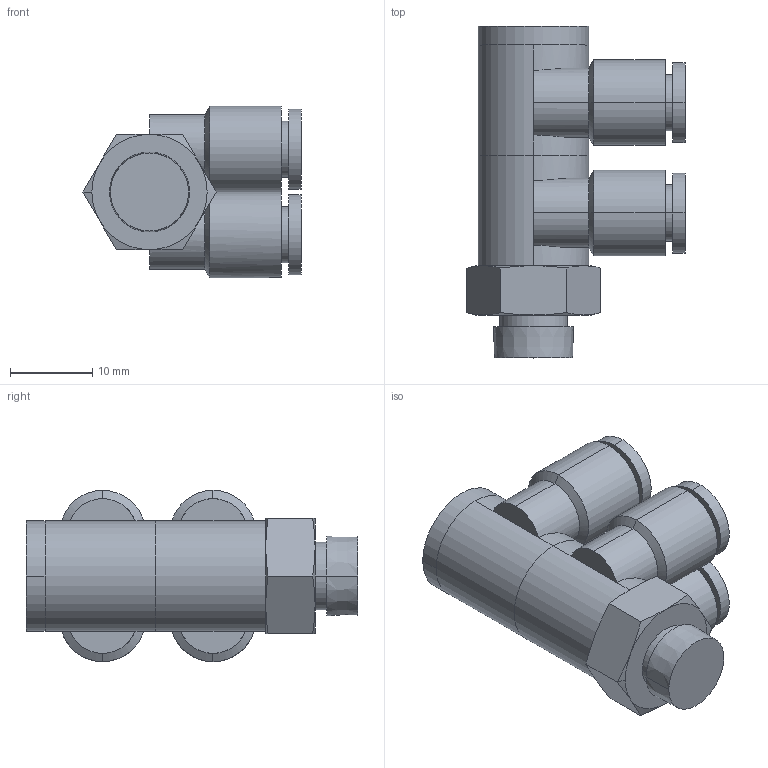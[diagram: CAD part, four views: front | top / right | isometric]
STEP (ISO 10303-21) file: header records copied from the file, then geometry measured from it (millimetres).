
FILE_DESCRIPTION (( 'STEP AP203' ), '1' );
FILE_NAME ('FZD06-01.STEP', '2020-05-11T14:46:32', ( '' ), ( '' ), 'SwSTEP 2.0', 'SolidWorks 2019', '' );
FILE_SCHEMA (( 'CONFIG_CONTROL_DESIGN' ));
Length unit declared in the file: millimetre
Products named in the file (1): FZD06-01
Bounding box: 26.48 x 40.3 x 20.8 mm (x, y, z)
Volume: 8381.2 mm3; surface area: 7441.8 mm2
Topology: 3 solids, 3 shells, 118 faces, 274 edges, 172 vertices
Faces by surface type: cylinder 52, plane 42, cone 24
Entity records: 4259 total; most frequent: CARTESIAN_POINT 1453, DIRECTION 592, ORIENTED_EDGE 548, EDGE_CURVE 274, AXIS2_PLACEMENT_3D 247, VERTEX_POINT 172, EDGE_LOOP 140, CIRCLE 128
